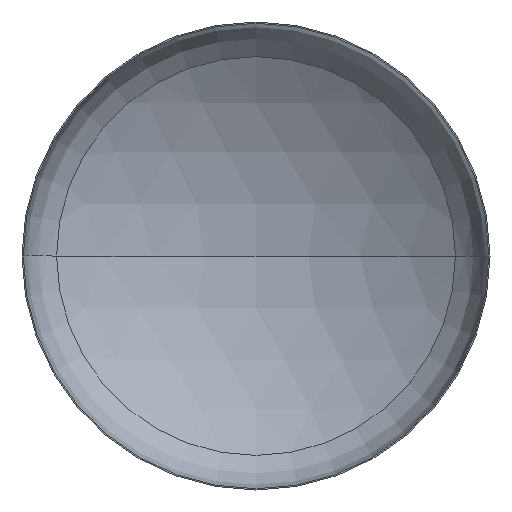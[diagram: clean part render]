
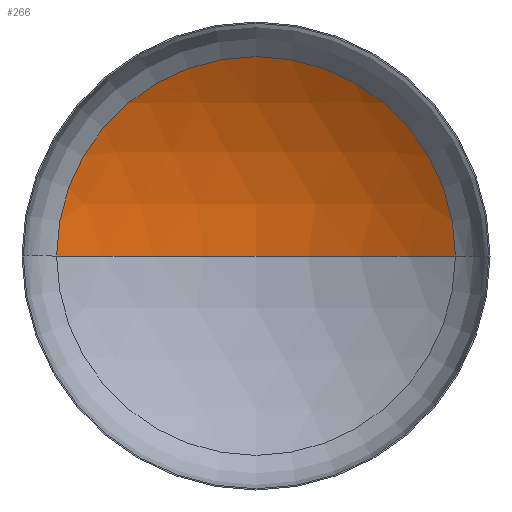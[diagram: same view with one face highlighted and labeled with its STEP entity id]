
A CAD part, front view. The second image highlights one B-rep face of the part: STEP entity #266.
In plain terms, the highlighted spherical face has radius 1520 mm.
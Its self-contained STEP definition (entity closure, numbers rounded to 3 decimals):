
#2 = AXIS2_PLACEMENT_3D ( 'NONE', #167, #342, #193 ) ;
#8 = AXIS2_PLACEMENT_3D ( 'NONE', #153, #339, #144 ) ;
#11 = AXIS2_PLACEMENT_3D ( 'NONE', #387, #271, #328 ) ;
#19 = EDGE_LOOP ( 'NONE', ( #38, #131, #108 ) ) ;
#38 = ORIENTED_EDGE ( 'NONE', *, *, #351, .F. ) ;
#42 = AXIS2_PLACEMENT_3D ( 'NONE', #256, #270, #136 ) ;
#51 = VERTEX_POINT ( 'NONE', #289 ) ;
#76 = VERTEX_POINT ( 'NONE', #376 ) ;
#108 = ORIENTED_EDGE ( 'NONE', *, *, #360, .T. ) ;
#123 = VERTEX_POINT ( 'NONE', #310 ) ;
#131 = ORIENTED_EDGE ( 'NONE', *, *, #347, .T. ) ;
#136 = DIRECTION ( 'NONE',  ( -1., 0., 0. ) ) ;
#144 = DIRECTION ( 'NONE',  ( 1., 0., 0. ) ) ;
#153 = CARTESIAN_POINT ( 'NONE',  ( 0., -1021.093, 0. ) ) ;
#167 = CARTESIAN_POINT ( 'NONE',  ( 0., 265.461, 0. ) ) ;
#193 = DIRECTION ( 'NONE',  ( 1., 0., 0. ) ) ;
#195 = SPHERICAL_SURFACE ( 'NONE', #42, 1520. ) ;
#231 = CIRCLE ( 'NONE', #11, 1520. ) ;
#256 = CARTESIAN_POINT ( 'NONE',  ( 0., -1021.093, 0. ) ) ;
#266 = ADVANCED_FACE ( 'NONE', ( #386 ), #195, .F. ) ;
#270 = DIRECTION ( 'NONE',  ( 0., 0., -1. ) ) ;
#271 = DIRECTION ( 'NONE',  ( 0., 0., -1. ) ) ;
#281 = CIRCLE ( 'NONE', #2, 809.431 ) ;
#289 = CARTESIAN_POINT ( 'NONE',  ( 809.431, 265.461, 0. ) ) ;
#310 = CARTESIAN_POINT ( 'NONE',  ( 0., 498.907, 0. ) ) ;
#328 = DIRECTION ( 'NONE',  ( -1., 0., 0. ) ) ;
#339 = DIRECTION ( 'NONE',  ( 0., 0., 1. ) ) ;
#342 = DIRECTION ( 'NONE',  ( 0., -1., 0. ) ) ;
#347 = EDGE_CURVE ( 'NONE', #123, #51, #231, .T. ) ;
#351 = EDGE_CURVE ( 'NONE', #123, #76, #357, .T. ) ;
#357 = CIRCLE ( 'NONE', #8, 1520. ) ;
#360 = EDGE_CURVE ( 'NONE', #51, #76, #281, .T. ) ;
#376 = CARTESIAN_POINT ( 'NONE',  ( -809.431, 265.461, 0. ) ) ;
#386 = FACE_OUTER_BOUND ( 'NONE', #19, .T. ) ;
#387 = CARTESIAN_POINT ( 'NONE',  ( 0., -1021.093, 0. ) ) ;
